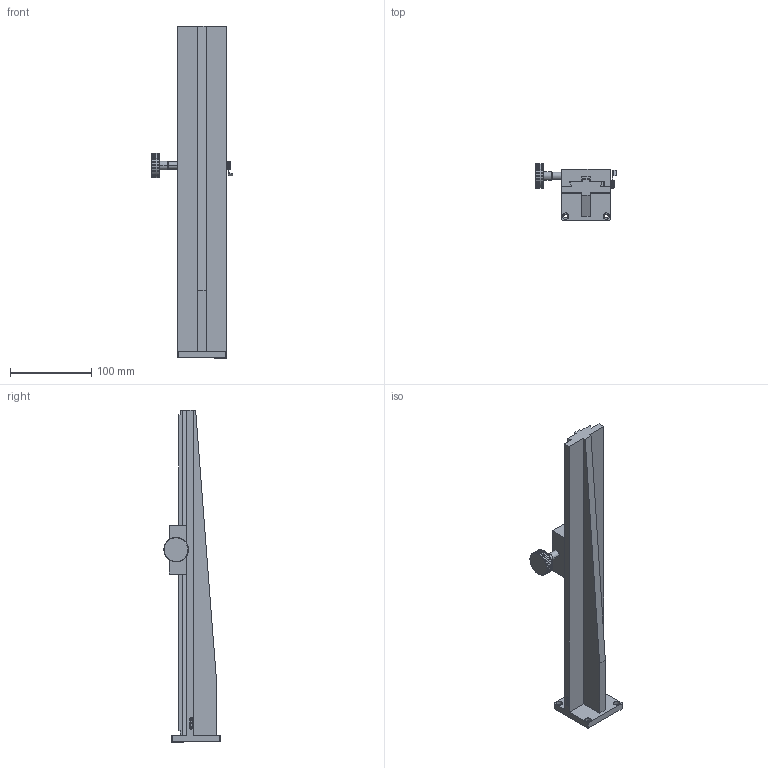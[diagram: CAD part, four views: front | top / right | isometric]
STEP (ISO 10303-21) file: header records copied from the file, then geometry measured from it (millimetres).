
FILE_DESCRIPTION (( 'STEP AP214' ), '1' );
FILE_NAME ('PT-DZ60-400（一体）.STEP', '2022-09-17T05:02:43', ( '' ), ( '' ), 'SwSTEP 2.0', 'SolidWorks 2017', '' );
FILE_SCHEMA (( 'AUTOMOTIVE_DESIGN' ));
Length unit declared in the file: millimetre
Products named in the file (7): LWX60 賑輸; LWX60.0.1; LWX40.0.4; LWX60-400-1 （新）; LWX40.0.3; PT-DZ60-400（一体）
Assembly tree (6 placements, depth 3):
  PT-DZ60-400（一体）
    LWX60-400-1 （新）
    LWX60 賑輸
      LWX60 賑輸
      LWX60.0.1
      LWX40.0.3
      LWX40.0.4
Bounding box: 100.5 x 69 x 408 mm (x, y, z)
Volume: 453953.8 mm3; surface area: 109823.6 mm2
Topology: 5 solids, 5 shells, 695 faces, 1907 edges, 1266 vertices
Faces by surface type: plane 324, cylinder 208, bspline 153, cone 10
Entity records: 33150 total; most frequent: CARTESIAN_POINT 12521, ORIENTED_EDGE 3814, DIRECTION 2833, EDGE_CURVE 1907, VERTEX_POINT 1266, VECTOR 1145, LINE 1145, AXIS2_PLACEMENT_3D 844
